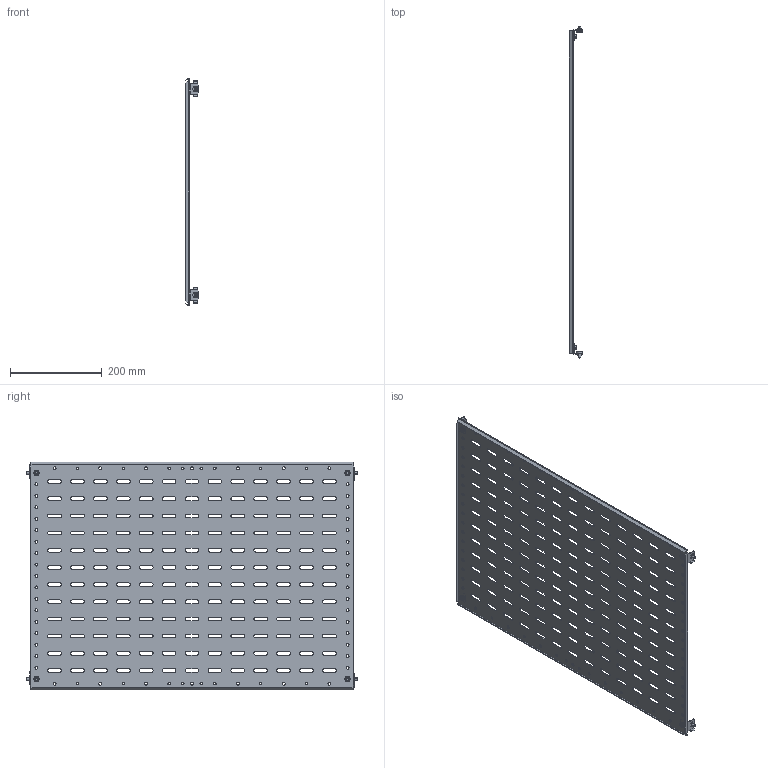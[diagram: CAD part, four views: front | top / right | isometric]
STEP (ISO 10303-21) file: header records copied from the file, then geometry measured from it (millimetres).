
FILE_DESCRIPTION (( 'STEP AP214' ), '1' );
FILE_NAME ('FO-00-SWF-050-080 Ïåðåãîðîäêà ñåêöèîíèðîâàíèÿ çàäíÿÿ 500õ800 ìì.STEP', '2025-08-12T09:20:55', ( '' ), ( '' ), 'SwSTEP 2.0', 'SolidWorks 2023', '' );
FILE_SCHEMA (( 'AUTOMOTIVE_DESIGN' ));
Length unit declared in the file: millimetre
Products named in the file (1): FO-00-SWF-050-080 Перегородка секционирования задняя 500х800 мм
Bounding box: 30.52 x 724 x 497.66 mm (x, y, z)
Volume: 510133 mm3; surface area: 693941.1 mm2
Topology: 1 solids, 5 shells, 1300 faces, 3742 edges, 2472 vertices
Faces by surface type: cylinder 772, plane 472, torus 24, cone 24, sphere 8
Entity records: 44205 total; most frequent: DIRECTION 7836, CARTESIAN_POINT 7783, ORIENTED_EDGE 7484, EDGE_CURVE 3742, AXIS2_PLACEMENT_3D 2861, VERTEX_POINT 2472, LINE 2114, VECTOR 2114
